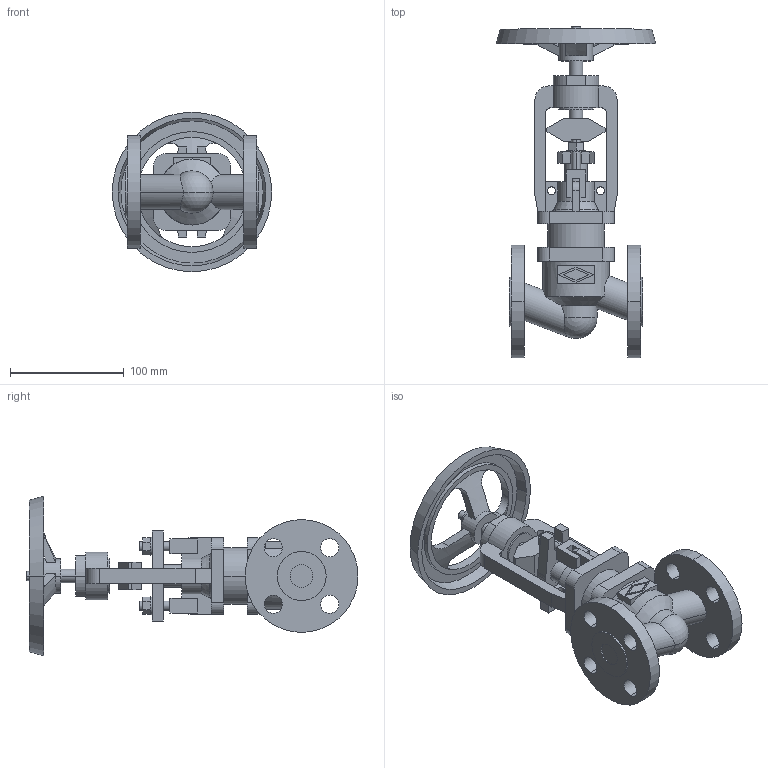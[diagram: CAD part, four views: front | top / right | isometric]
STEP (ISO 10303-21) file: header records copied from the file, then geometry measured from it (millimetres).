
FILE_DESCRIPTION(('OneSpaceDesigner STEP Export'),'2;1');
FILE_NAME('c000004221.stp','2010-04-30T 9:25:45',(''),(''),'OneSpace Designer STEP processor for AP214 (Solid Model)','OneSpace Modeling 15.50B 03-Nov-2007 (C) CoCreate Software GmbH','');
FILE_SCHEMA(('AUTOMOTIVE_DESIGN { 1 0 10303 214 1 1 1 1 }'));
Length unit declared in the file: millimetre
Products named in the file (1): 1
Bounding box: 140 x 291.4 x 140 mm (x, y, z)
Volume: 704770.6 mm3; surface area: 147742.2 mm2
Topology: 1 solids, 1 shells, 282 faces, 735 edges, 480 vertices
Faces by surface type: plane 149, cylinder 107, cone 20, torus 4, sphere 2
Entity records: 10790 total; most frequent: CARTESIAN_POINT 1925, ORIENTED_EDGE 1466, DIRECTION 1231, EDGE_CURVE 733, VERTEX_POINT 480, VECTOR 433, LINE 433, AXIS2_PLACEMENT_3D 399
